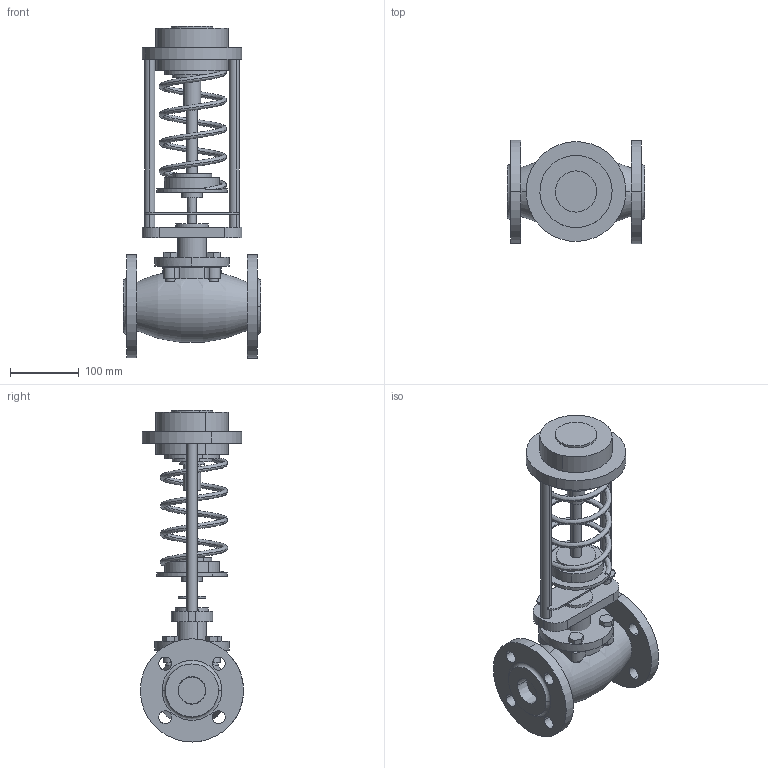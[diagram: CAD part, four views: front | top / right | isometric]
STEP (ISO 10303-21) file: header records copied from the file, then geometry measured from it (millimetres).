
FILE_DESCRIPTION (( 'STEP AP214' ), '1' );
FILE_NAME ('RDT-S, RDT-B DN-40.STEP', '2025-12-12T08:10:39', ( '' ), ( '' ), 'SwSTEP 2.0', 'SolidWorks 2023', '' );
FILE_SCHEMA (( 'AUTOMOTIVE_DESIGN' ));
Length unit declared in the file: millimetre
Products named in the file (4): RDT-S, RDT-B DN-40; ___ 1_4.stp; RDT DN-40(______)_1.stp; RDT-S, RDT-B DN-40.stp
Assembly tree (3 placements, depth 3):
  RDT-S, RDT-B DN-40
    RDT-S, RDT-B DN-40.stp
      ___ 1_4.stp
      RDT DN-40(______)_1.stp
Bounding box: 200.06 x 150.15 x 482.5 mm (x, y, z)
Volume: 3074982.8 mm3; surface area: 340186.6 mm2
Topology: 2 solids, 3 shells, 217 faces, 556 edges, 366 vertices
Faces by surface type: cylinder 110, plane 92, torus 7, cone 4, bspline 4
Entity records: 21736 total; most frequent: CARTESIAN_POINT 16126, DIRECTION 1206, ORIENTED_EDGE 1112, EDGE_CURVE 556, AXIS2_PLACEMENT_3D 478, VERTEX_POINT 366, EDGE_LOOP 276, CIRCLE 258
